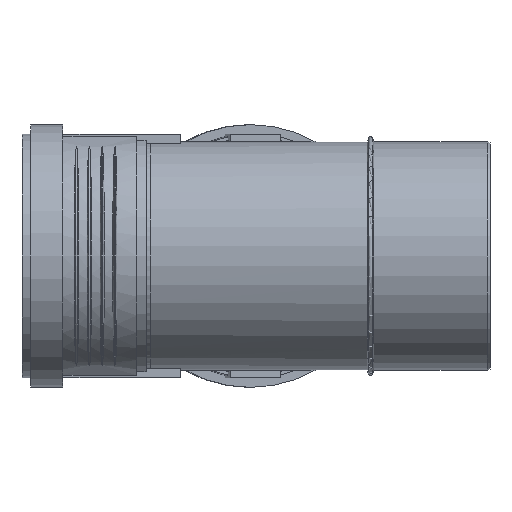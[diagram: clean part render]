
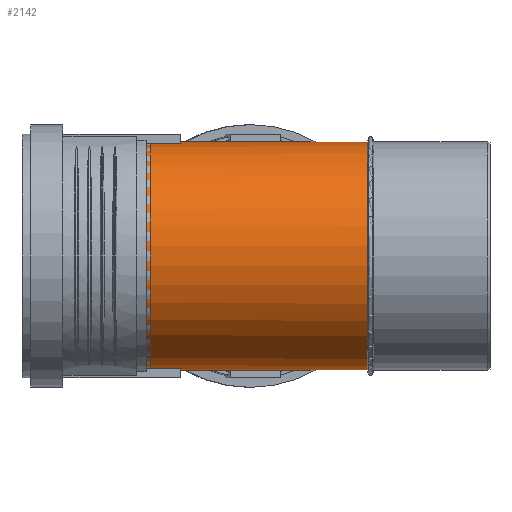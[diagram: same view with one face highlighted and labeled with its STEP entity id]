
A CAD part, left-side view. The second image highlights one B-rep face of the part: STEP entity #2142.
In plain terms, the highlighted cylindrical face has radius 80.125 mm (diameter 160.25 mm), a partial arc.
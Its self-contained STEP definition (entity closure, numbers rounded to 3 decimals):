
#81=CYLINDRICAL_SURFACE($,#2292,80.125);
#115=ELLIPSE($,#2293,110.921,80.125);
#116=ELLIPSE($,#2294,115.869,80.125);
#117=ELLIPSE($,#2295,115.869,80.125);
#118=ELLIPSE($,#2296,110.921,80.125);
#363=FACE_OUTER_BOUND($,#489,.T.);
#489=EDGE_LOOP($,(#1559,#1560,#1561,#1562,#1563,#1564));
#808=CIRCLE($,#2277,80.125);
#814=CIRCLE($,#2288,80.125);
#1020=VERTEX_POINT($,#3214);
#1021=VERTEX_POINT($,#3216);
#1028=VERTEX_POINT($,#3235);
#1029=VERTEX_POINT($,#3236);
#1031=VERTEX_POINT($,#3267);
#1032=VERTEX_POINT($,#3270);
#1242=EDGE_CURVE($,#1021,#1020,#808,.T.);
#1251=EDGE_CURVE($,#1029,#1028,#814,.T.);
#1253=EDGE_CURVE($,#1028,#1031,#115,.T.);
#1254=EDGE_CURVE($,#1031,#1021,#116,.T.);
#1255=EDGE_CURVE($,#1020,#1032,#117,.T.);
#1256=EDGE_CURVE($,#1032,#1029,#118,.T.);
#1559=ORIENTED_EDGE($,*,*,#1251,.T.);
#1560=ORIENTED_EDGE($,*,*,#1253,.T.);
#1561=ORIENTED_EDGE($,*,*,#1254,.T.);
#1562=ORIENTED_EDGE($,*,*,#1242,.T.);
#1563=ORIENTED_EDGE($,*,*,#1255,.T.);
#1564=ORIENTED_EDGE($,*,*,#1256,.T.);
#2142=ADVANCED_FACE($,(#363),#81,.T.);
#2277=AXIS2_PLACEMENT_3D($,#3217,#2539,#2540);
#2288=AXIS2_PLACEMENT_3D($,#3261,#2562,#2563);
#2292=AXIS2_PLACEMENT_3D($,#3266,#2570,#2571);
#2293=AXIS2_PLACEMENT_3D($,#3268,#2572,#2573);
#2294=AXIS2_PLACEMENT_3D($,#3269,#2574,#2575);
#2295=AXIS2_PLACEMENT_3D($,#3271,#2576,#2577);
#2296=AXIS2_PLACEMENT_3D($,#3272,#2578,#2579);
#2539=DIRECTION('center_axis',(0.,-1.,0.));
#2540=DIRECTION('ref_axis',(1.,0.,0.));
#2562=DIRECTION('center_axis',(0.,1.,0.));
#2563=DIRECTION('ref_axis',(1.,0.,0.));
#2570=DIRECTION('center_axis',(0.,1.,0.));
#2571=DIRECTION('ref_axis',(1.,0.,0.));
#2572=DIRECTION('center_axis',(-0.692,-0.722,0.));
#2573=DIRECTION('ref_axis',(0.722,-0.692,0.));
#2574=DIRECTION('center_axis',(-0.722,0.692,0.));
#2575=DIRECTION('ref_axis',(-0.692,-0.722,0.));
#2576=DIRECTION('center_axis',(-0.722,0.692,0.));
#2577=DIRECTION('ref_axis',(-0.692,-0.722,0.));
#2578=DIRECTION('center_axis',(-0.692,-0.722,0.));
#2579=DIRECTION('ref_axis',(0.722,-0.692,0.));
#3214=CARTESIAN_POINT('',(75.913,241.48,-25.636));
#3216=CARTESIAN_POINT('',(75.913,241.48,25.636));
#3217=CARTESIAN_POINT('Origin',(0.,241.48,0.));
#3235=CARTESIAN_POINT('',(79.474,86.1,10.191));
#3236=CARTESIAN_POINT('',(79.474,86.1,-10.191));
#3261=CARTESIAN_POINT('Origin',(0.,86.1,0.));
#3266=CARTESIAN_POINT('Origin',(0.,0.,0.));
#3267=CARTESIAN_POINT('',(0.,162.18,80.125));
#3268=CARTESIAN_POINT('Origin',(0.,162.18,0.));
#3269=CARTESIAN_POINT('Origin',(0.,162.18,0.));
#3270=CARTESIAN_POINT('',(0.,162.18,-80.125));
#3271=CARTESIAN_POINT('Origin',(0.,162.18,0.));
#3272=CARTESIAN_POINT('Origin',(0.,162.18,0.));
